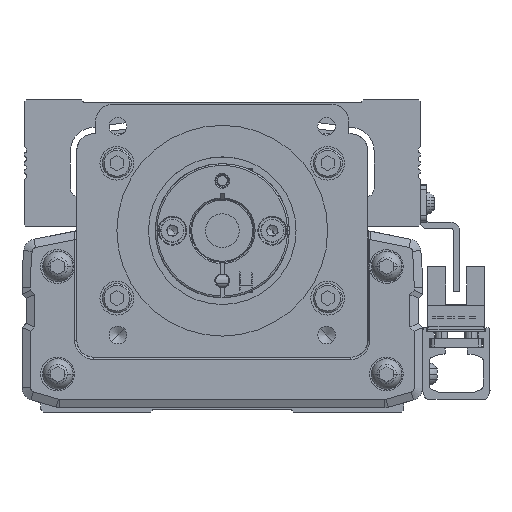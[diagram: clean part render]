
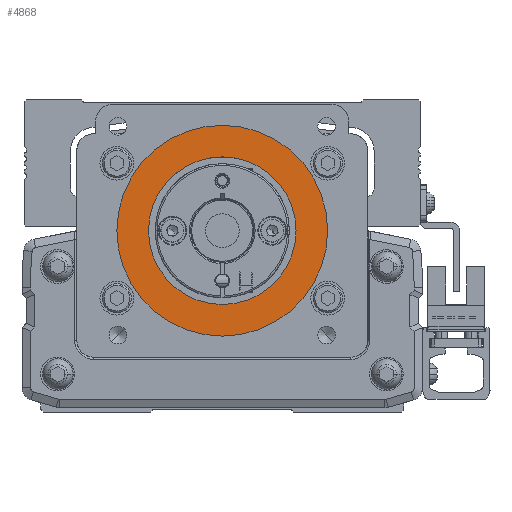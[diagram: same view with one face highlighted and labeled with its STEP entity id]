
A CAD part, front view. The second image highlights one B-rep face of the part: STEP entity #4868.
In plain terms, the highlighted planar face has unit normal (0, -1, 0).
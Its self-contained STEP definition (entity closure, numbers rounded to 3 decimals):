
#4868=ADVANCED_FACE('',(#12658,#12659),#12660,.T.);
#12658=FACE_BOUND('',#24229,.T.);
#12659=FACE_OUTER_BOUND('',#24230,.T.);
#12660=PLANE('',#24231);
#24229=EDGE_LOOP('',(#39381,#39382));
#24230=EDGE_LOOP('',(#39383,#39384));
#24231=AXIS2_PLACEMENT_3D('',#39385,#39386,#39387);
#39381=ORIENTED_EDGE('',*,*,#70036,.T.);
#39382=ORIENTED_EDGE('',*,*,#70037,.T.);
#39383=ORIENTED_EDGE('',*,*,#70038,.F.);
#39384=ORIENTED_EDGE('',*,*,#69632,.F.);
#39385=CARTESIAN_POINT('',(0.,-35.778,0.));
#39386=DIRECTION('',(0.,-1.0,0.));
#39387=DIRECTION('',(1.0,0.,0.));
#69632=EDGE_CURVE('',#83581,#83576,#83583,.T.);
#70036=EDGE_CURVE('',#84291,#84292,#84293,.T.);
#70037=EDGE_CURVE('',#84292,#84291,#84294,.T.);
#70038=EDGE_CURVE('',#83576,#83581,#84295,.T.);
#83576=VERTEX_POINT('',#103152);
#83581=VERTEX_POINT('',#103158);
#83583=CIRCLE('',#103161,25.0);
#84291=VERTEX_POINT('',#104173);
#84292=VERTEX_POINT('',#104174);
#84293=CIRCLE('',#104175,17.5);
#84294=CIRCLE('',#104176,17.5);
#84295=CIRCLE('',#104177,25.0);
#103152=CARTESIAN_POINT('',(25.,-35.778,0.));
#103158=CARTESIAN_POINT('',(-25.,-35.778,0.));
#103161=AXIS2_PLACEMENT_3D('',#127412,#127413,#127414);
#104173=CARTESIAN_POINT('',(17.5,-35.778,0.));
#104174=CARTESIAN_POINT('',(-17.5,-35.778,0.));
#104175=AXIS2_PLACEMENT_3D('',#127979,#127980,#127981);
#104176=AXIS2_PLACEMENT_3D('',#127982,#127983,#127984);
#104177=AXIS2_PLACEMENT_3D('',#127985,#127986,#127987);
#127412=CARTESIAN_POINT('',(0.,-35.778,0.));
#127413=DIRECTION('',(0.,1.0,0.));
#127414=DIRECTION('',(1.0,0.,0.));
#127979=CARTESIAN_POINT('',(0.,-35.778,0.));
#127980=DIRECTION('',(0.,1.0,0.));
#127981=DIRECTION('',(-1.0,0.,0.));
#127982=CARTESIAN_POINT('',(0.,-35.778,0.));
#127983=DIRECTION('',(0.,1.0,0.));
#127984=DIRECTION('',(-1.0,0.,0.));
#127985=CARTESIAN_POINT('',(0.,-35.778,0.));
#127986=DIRECTION('',(0.,1.0,0.));
#127987=DIRECTION('',(1.0,0.,0.));
